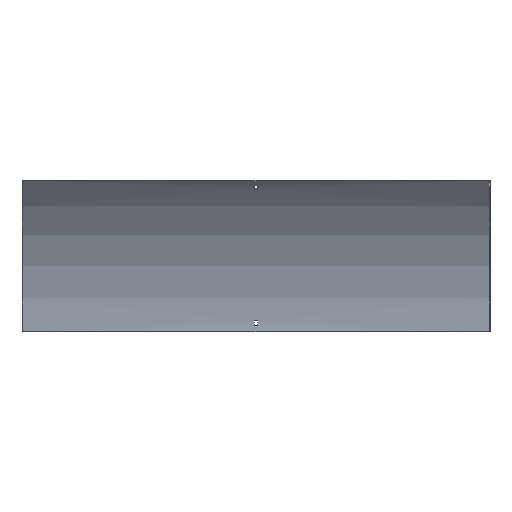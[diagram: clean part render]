
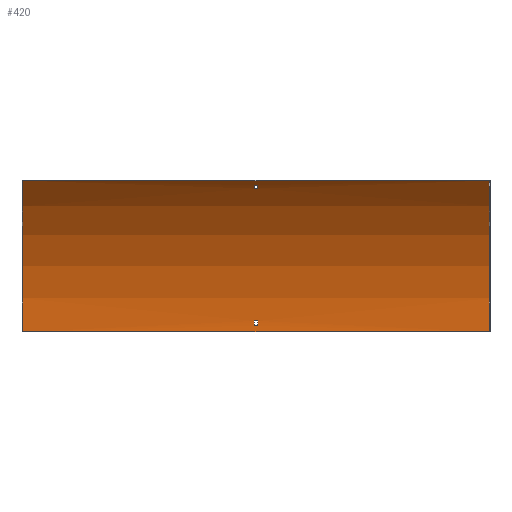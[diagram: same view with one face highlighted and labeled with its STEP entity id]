
A CAD part, front view. The second image highlights one B-rep face of the part: STEP entity #420.
In plain terms, the highlighted cylindrical face has radius 412.5 mm (diameter 825 mm), a partial arc.
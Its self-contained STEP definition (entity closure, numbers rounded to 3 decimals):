
#5 = CARTESIAN_POINT ( 'NONE',  ( 450., -122.318, 291.682 ) ) ;
#27 = CARTESIAN_POINT ( 'NONE',  ( 3.25, -107.847, 276.454 ) ) ;
#48 = CYLINDRICAL_SURFACE ( 'NONE', #376, 412.5 ) ;
#52 = DIRECTION ( 'NONE',  ( 1., 0., 0. ) ) ;
#55 = EDGE_CURVE ( 'NONE', #545, #542, #65, .T. ) ;
#61 = LINE ( 'NONE', #209, #372 ) ;
#65 = LINE ( 'NONE', #338, #499 ) ;
#66 = CARTESIAN_POINT ( 'NONE',  ( -450., -122.318, 291.682 ) ) ;
#72 = FACE_OUTER_BOUND ( 'NONE', #321, .T. ) ;
#77 = VERTEX_POINT ( 'NONE', #94 ) ;
#90 = ORIENTED_EDGE ( 'NONE', *, *, #588, .T. ) ;
#94 = CARTESIAN_POINT ( 'NONE',  ( -3.25, -1.675, 12. ) ) ;
#97 = CARTESIAN_POINT ( 'NONE',  ( 451.5, -2.035, 21. ) ) ;
#100 = ORIENTED_EDGE ( 'NONE', *, *, #446, .T. ) ;
#114 = DIRECTION ( 'NONE',  ( -1., 0., 0. ) ) ;
#119 = DIRECTION ( 'NONE',  ( 0., 0., 1. ) ) ;
#122 = DIRECTION ( 'NONE',  ( 0., 0., -1. ) ) ;
#136 = LINE ( 'NONE', #416, #398 ) ;
#138 = CARTESIAN_POINT ( 'NONE',  ( 3.25, -1.675, 12. ) ) ;
#141 = VERTEX_POINT ( 'NONE', #353 ) ;
#153 = CARTESIAN_POINT ( 'NONE',  ( -450., -1.5, 0. ) ) ;
#157 = CIRCLE ( 'NONE', #307, 412.5 ) ;
#161 = DIRECTION ( 'NONE',  ( -1., 0., 0. ) ) ;
#165 = DIRECTION ( 'NONE',  ( -1., 0., 0. ) ) ;
#167 = DIRECTION ( 'NONE',  ( 1., 0., 0. ) ) ;
#169 = CIRCLE ( 'NONE', #247, 412.5 ) ;
#175 = EDGE_CURVE ( 'NONE', #498, #429, #233, .T. ) ;
#176 = ORIENTED_EDGE ( 'NONE', *, *, #55, .F. ) ;
#177 = CARTESIAN_POINT ( 'NONE',  ( 451.5, -414., 0. ) ) ;
#179 = ORIENTED_EDGE ( 'NONE', *, *, #592, .T. ) ;
#180 = VECTOR ( 'NONE', #52, 1000. ) ;
#181 = EDGE_LOOP ( 'NONE', ( #194, #428, #570, #413 ) ) ;
#184 = VERTEX_POINT ( 'NONE', #217 ) ;
#194 = ORIENTED_EDGE ( 'NONE', *, *, #409, .F. ) ;
#199 = CIRCLE ( 'NONE', #291, 412.5 ) ;
#200 = CARTESIAN_POINT ( 'NONE',  ( 3.25, -414., 0. ) ) ;
#209 = CARTESIAN_POINT ( 'NONE',  ( 450., -122.318, 291.682 ) ) ;
#217 = CARTESIAN_POINT ( 'NONE',  ( -3.25, -113.957, 283.073 ) ) ;
#220 = VERTEX_POINT ( 'NONE', #66 ) ;
#226 = DIRECTION ( 'NONE',  ( -1., 0., 0. ) ) ;
#233 = CIRCLE ( 'NONE', #345, 412.5 ) ;
#238 = VECTOR ( 'NONE', #554, 1000. ) ;
#244 = CARTESIAN_POINT ( 'NONE',  ( 451.5, -113.957, 283.073 ) ) ;
#247 = AXIS2_PLACEMENT_3D ( 'NONE', #407, #167, #537 ) ;
#255 = DIRECTION ( 'NONE',  ( 0., 0., 1. ) ) ;
#256 = CARTESIAN_POINT ( 'NONE',  ( -450., -414., 0. ) ) ;
#258 = FACE_BOUND ( 'NONE', #505, .T. ) ;
#269 = EDGE_CURVE ( 'NONE', #184, #141, #390, .T. ) ;
#272 = CIRCLE ( 'NONE', #602, 412.5 ) ;
#274 = DIRECTION ( 'NONE',  ( 0., 0., 1. ) ) ;
#288 = EDGE_CURVE ( 'NONE', #429, #298, #571, .T. ) ;
#291 = AXIS2_PLACEMENT_3D ( 'NONE', #256, #395, #122 ) ;
#297 = DIRECTION ( 'NONE',  ( -1., 0., 0. ) ) ;
#298 = VERTEX_POINT ( 'NONE', #323 ) ;
#307 = AXIS2_PLACEMENT_3D ( 'NONE', #200, #297, #255 ) ;
#319 = VERTEX_POINT ( 'NONE', #544 ) ;
#321 = EDGE_LOOP ( 'NONE', ( #520, #176, #387, #90 ) ) ;
#323 = CARTESIAN_POINT ( 'NONE',  ( -3.25, -2.035, 21. ) ) ;
#326 = CARTESIAN_POINT ( 'NONE',  ( 451.5, -1.675, 12. ) ) ;
#336 = VERTEX_POINT ( 'NONE', #27 ) ;
#338 = CARTESIAN_POINT ( 'NONE',  ( 450., -1.5, 0. ) ) ;
#342 = EDGE_CURVE ( 'NONE', #319, #184, #441, .T. ) ;
#343 = EDGE_CURVE ( 'NONE', #542, #220, #199, .T. ) ;
#345 = AXIS2_PLACEMENT_3D ( 'NONE', #549, #594, #607 ) ;
#346 = DIRECTION ( 'NONE',  ( -1., 0., 0. ) ) ;
#353 = CARTESIAN_POINT ( 'NONE',  ( 3.25, -113.957, 283.073 ) ) ;
#357 = ORIENTED_EDGE ( 'NONE', *, *, #342, .T. ) ;
#371 = CARTESIAN_POINT ( 'NONE',  ( 450., -1.5, 0. ) ) ;
#372 = VECTOR ( 'NONE', #114, 1000. ) ;
#376 = AXIS2_PLACEMENT_3D ( 'NONE', #177, #226, #274 ) ;
#387 = ORIENTED_EDGE ( 'NONE', *, *, #389, .T. ) ;
#389 = EDGE_CURVE ( 'NONE', #545, #467, #169, .T. ) ;
#390 = LINE ( 'NONE', #244, #180 ) ;
#393 = CARTESIAN_POINT ( 'NONE',  ( -3.25, -414., 0. ) ) ;
#395 = DIRECTION ( 'NONE',  ( 1., 0., 0. ) ) ;
#398 = VECTOR ( 'NONE', #603, 1000. ) ;
#399 = DIRECTION ( 'NONE',  ( 0., 0., -1. ) ) ;
#407 = CARTESIAN_POINT ( 'NONE',  ( 450., -414., 0. ) ) ;
#409 = EDGE_CURVE ( 'NONE', #298, #77, #272, .T. ) ;
#413 = ORIENTED_EDGE ( 'NONE', *, *, #514, .F. ) ;
#416 = CARTESIAN_POINT ( 'NONE',  ( 451.5, -107.847, 276.454 ) ) ;
#420 = ADVANCED_FACE ( 'NONE', ( #493, #72, #258 ), #48, .F. ) ;
#428 = ORIENTED_EDGE ( 'NONE', *, *, #288, .F. ) ;
#429 = VERTEX_POINT ( 'NONE', #597 ) ;
#441 = CIRCLE ( 'NONE', #573, 412.5 ) ;
#446 = EDGE_CURVE ( 'NONE', #336, #319, #136, .T. ) ;
#450 = DIRECTION ( 'NONE',  ( 1., 0., 0. ) ) ;
#467 = VERTEX_POINT ( 'NONE', #5 ) ;
#473 = LINE ( 'NONE', #326, #238 ) ;
#491 = VECTOR ( 'NONE', #165, 1000. ) ;
#493 = FACE_BOUND ( 'NONE', #181, .T. ) ;
#498 = VERTEX_POINT ( 'NONE', #138 ) ;
#499 = VECTOR ( 'NONE', #161, 1000. ) ;
#505 = EDGE_LOOP ( 'NONE', ( #100, #357, #561, #179 ) ) ;
#514 = EDGE_CURVE ( 'NONE', #77, #498, #473, .T. ) ;
#520 = ORIENTED_EDGE ( 'NONE', *, *, #343, .F. ) ;
#537 = DIRECTION ( 'NONE',  ( 0., 0., -1. ) ) ;
#542 = VERTEX_POINT ( 'NONE', #153 ) ;
#544 = CARTESIAN_POINT ( 'NONE',  ( -3.25, -107.847, 276.454 ) ) ;
#545 = VERTEX_POINT ( 'NONE', #371 ) ;
#549 = CARTESIAN_POINT ( 'NONE',  ( 3.25, -414., 0. ) ) ;
#554 = DIRECTION ( 'NONE',  ( 1., 0., 0. ) ) ;
#561 = ORIENTED_EDGE ( 'NONE', *, *, #269, .T. ) ;
#570 = ORIENTED_EDGE ( 'NONE', *, *, #175, .F. ) ;
#571 = LINE ( 'NONE', #97, #491 ) ;
#573 = AXIS2_PLACEMENT_3D ( 'NONE', #393, #450, #399 ) ;
#585 = CARTESIAN_POINT ( 'NONE',  ( -3.25, -414., 0. ) ) ;
#588 = EDGE_CURVE ( 'NONE', #467, #220, #61, .T. ) ;
#592 = EDGE_CURVE ( 'NONE', #141, #336, #157, .T. ) ;
#594 = DIRECTION ( 'NONE',  ( 1., 0., 0. ) ) ;
#597 = CARTESIAN_POINT ( 'NONE',  ( 3.25, -2.035, 21. ) ) ;
#602 = AXIS2_PLACEMENT_3D ( 'NONE', #585, #346, #119 ) ;
#603 = DIRECTION ( 'NONE',  ( -1., 0., 0. ) ) ;
#607 = DIRECTION ( 'NONE',  ( 0., 0., -1. ) ) ;
